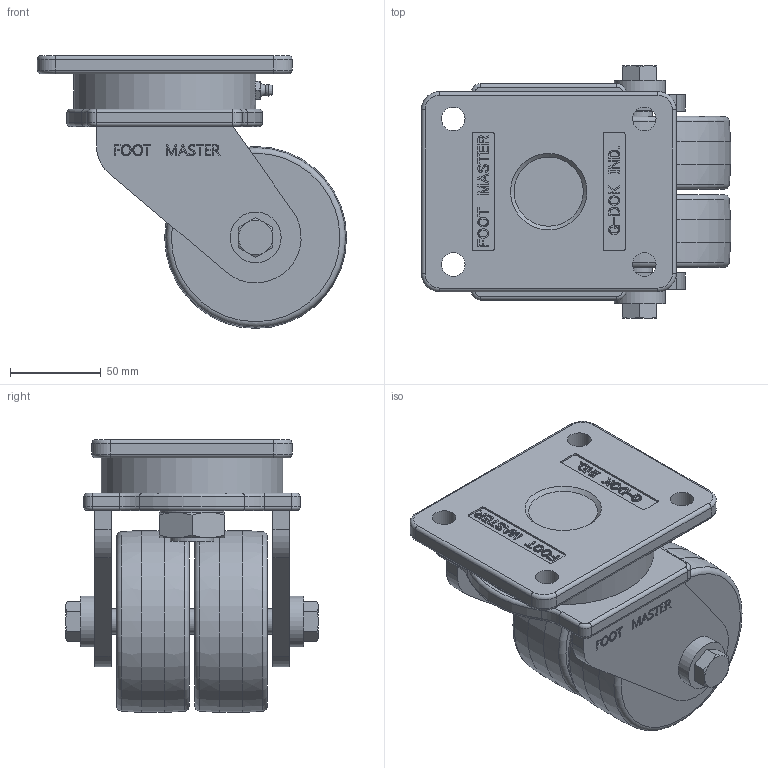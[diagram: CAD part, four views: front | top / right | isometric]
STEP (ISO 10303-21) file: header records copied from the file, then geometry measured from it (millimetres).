
FILE_DESCRIPTION((''),'2;1');
FILE_NAME('E:\GXTT\가져온 구성요소\GXTT-100 SF-3D\GXTT-100-ASF.stp','2011-11-21T09:46:06',('Administrator'),(''),'Autodesk Inventor 2011','Autodesk Inventor 2011','');
FILE_SCHEMA(('AUTOMOTIVE_DESIGN { 1 0 10303 214 1 1 1 1 }'));
Length unit declared in the file: millimetre
Products named in the file (1): GXTT-100-ASF
Bounding box: 170 x 139 x 150 mm (x, y, z)
Surface area: 138621.6 mm2
Topology: 2 solids, 3 shells, 834 faces, 2191 edges, 1434 vertices
Faces by surface type: plane 431, bspline 265, cylinder 66, cone 38, torus 34
Full cylindrical faces by diameter (mm): 1 x1, 4 x1, 5.153 x1, 13 x4, 14 x3, 24 x2, 28 x2, 34.8 x1, 100 x3
Entity records: 26624 total; most frequent: CARTESIAN_POINT 8067, ORIENTED_EDGE 4286, DIRECTION 2907, EDGE_CURVE 2143, VERTEX_POINT 1422, VECTOR 1327, LINE 1327, EDGE_LOOP 957
